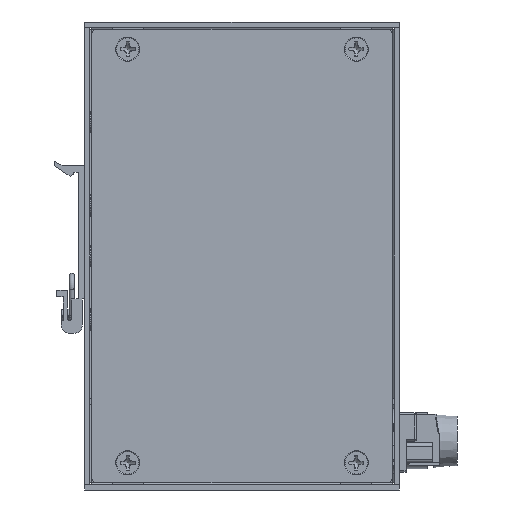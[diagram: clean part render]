
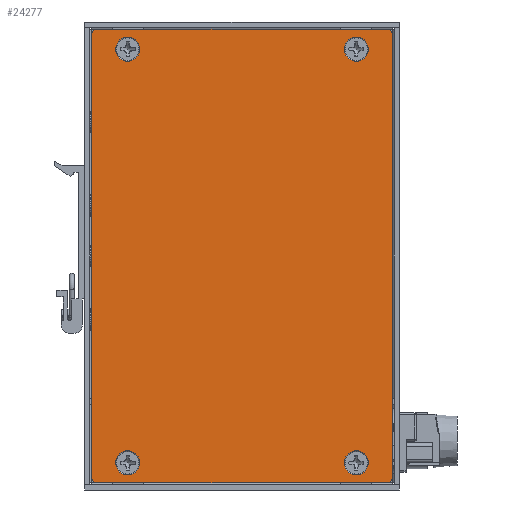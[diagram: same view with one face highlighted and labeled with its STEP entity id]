
A CAD part, front view. The second image highlights one B-rep face of the part: STEP entity #24277.
In plain terms, the highlighted planar face has unit normal (0, -1, 0).
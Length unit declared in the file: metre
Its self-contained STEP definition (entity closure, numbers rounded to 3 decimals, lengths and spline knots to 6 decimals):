
#530=LINE('',#38697,#3260);
#534=LINE('',#38706,#3264);
#540=LINE('',#38720,#3270);
#542=LINE('',#38724,#3272);
#3260=VECTOR('',#28265,1.);
#3264=VECTOR('',#28271,1.);
#3270=VECTOR('',#28279,1.);
#3272=VECTOR('',#28283,1.);
#5957=PLANE('',#26111);
#7318=CIRCLE('',#26112,0.003556);
#7319=CIRCLE('',#26113,0.003556);
#7320=CIRCLE('',#26114,0.003556);
#7321=CIRCLE('',#26115,0.003556);
#7322=CIRCLE('',#26116,0.001524);
#7323=CIRCLE('',#26117,0.001524);
#7324=CIRCLE('',#26118,0.001524);
#7325=CIRCLE('',#26119,0.001524);
#8436=ORIENTED_EDGE('',*,*,#15052,.T.);
#8437=ORIENTED_EDGE('',*,*,#15053,.T.);
#8438=ORIENTED_EDGE('',*,*,#15054,.T.);
#8439=ORIENTED_EDGE('',*,*,#15055,.T.);
#8440=ORIENTED_EDGE('',*,*,#15046,.F.);
#8441=ORIENTED_EDGE('',*,*,#15056,.T.);
#8442=ORIENTED_EDGE('',*,*,#15048,.F.);
#8443=ORIENTED_EDGE('',*,*,#15057,.T.);
#8444=ORIENTED_EDGE('',*,*,#15036,.T.);
#8445=ORIENTED_EDGE('',*,*,#15058,.T.);
#8446=ORIENTED_EDGE('',*,*,#15040,.T.);
#8447=ORIENTED_EDGE('',*,*,#15059,.T.);
#15036=EDGE_CURVE('',#18441,#18442,#530,.T.);
#15040=EDGE_CURVE('',#18445,#18446,#534,.T.);
#15046=EDGE_CURVE('',#18451,#18452,#540,.T.);
#15048=EDGE_CURVE('',#18453,#18454,#542,.T.);
#15052=EDGE_CURVE('',#18457,#18457,#7318,.T.);
#15053=EDGE_CURVE('',#18458,#18458,#7319,.T.);
#15054=EDGE_CURVE('',#18459,#18459,#7320,.T.);
#15055=EDGE_CURVE('',#18460,#18460,#7321,.T.);
#15056=EDGE_CURVE('',#18451,#18454,#7322,.T.);
#15057=EDGE_CURVE('',#18453,#18441,#7323,.T.);
#15058=EDGE_CURVE('',#18442,#18445,#7324,.T.);
#15059=EDGE_CURVE('',#18446,#18452,#7325,.T.);
#18441=VERTEX_POINT('',#38698);
#18442=VERTEX_POINT('',#38699);
#18445=VERTEX_POINT('',#38707);
#18446=VERTEX_POINT('',#38708);
#18451=VERTEX_POINT('',#38719);
#18452=VERTEX_POINT('',#38721);
#18453=VERTEX_POINT('',#38725);
#18454=VERTEX_POINT('',#38726);
#18457=VERTEX_POINT('',#38734);
#18458=VERTEX_POINT('',#38736);
#18459=VERTEX_POINT('',#38738);
#18460=VERTEX_POINT('',#38740);
#20750=EDGE_LOOP('',(#8436));
#20751=EDGE_LOOP('',(#8437));
#20752=EDGE_LOOP('',(#8438));
#20753=EDGE_LOOP('',(#8439));
#20754=EDGE_LOOP('',(#8440,#8441,#8442,#8443,#8444,#8445,#8446,#8447));
#22518=FACE_BOUND('',#20750,.T.);
#22519=FACE_BOUND('',#20751,.T.);
#22520=FACE_BOUND('',#20752,.T.);
#22521=FACE_BOUND('',#20753,.T.);
#22522=FACE_BOUND('',#20754,.T.);
#24277=ADVANCED_FACE('',(#22518,#22519,#22520,#22521,#22522),#5957,.T.);
#26111=AXIS2_PLACEMENT_3D('',#38732,#28287,#28288);
#26112=AXIS2_PLACEMENT_3D('',#38733,#28289,#28290);
#26113=AXIS2_PLACEMENT_3D('',#38735,#28291,#28292);
#26114=AXIS2_PLACEMENT_3D('',#38737,#28293,#28294);
#26115=AXIS2_PLACEMENT_3D('',#38739,#28295,#28296);
#26116=AXIS2_PLACEMENT_3D('',#38741,#28297,#28298);
#26117=AXIS2_PLACEMENT_3D('',#38742,#28299,#28300);
#26118=AXIS2_PLACEMENT_3D('',#38743,#28301,#28302);
#26119=AXIS2_PLACEMENT_3D('',#38744,#28303,#28304);
#28265=DIRECTION('',(1.,0.,0.));
#28271=DIRECTION('',(0.,0.,1.));
#28279=DIRECTION('',(1.,0.,0.));
#28283=DIRECTION('',(0.,0.,1.));
#28287=DIRECTION('',(0.,-1.,0.));
#28288=DIRECTION('',(0.,0.,-1.));
#28289=DIRECTION('',(0.,1.,0.));
#28290=DIRECTION('',(0.,0.,1.));
#28291=DIRECTION('',(0.,1.,0.));
#28292=DIRECTION('',(0.,0.,1.));
#28293=DIRECTION('',(0.,1.,0.));
#28294=DIRECTION('',(0.,0.,1.));
#28295=DIRECTION('',(0.,1.,0.));
#28296=DIRECTION('',(0.,0.,1.));
#28297=DIRECTION('',(0.,-1.,0.));
#28298=DIRECTION('',(0.,0.,-1.));
#28299=DIRECTION('',(0.,-1.,0.));
#28300=DIRECTION('',(0.,0.,-1.));
#28301=DIRECTION('',(0.,-1.,0.));
#28302=DIRECTION('',(0.,0.,-1.));
#28303=DIRECTION('',(0.,-1.,0.));
#28304=DIRECTION('',(0.,0.,-1.));
#38697=CARTESIAN_POINT('',(0.,-0.061722,-0.066993));
#38698=CARTESIAN_POINT('',(-0.042863,-0.061722,-0.066993));
#38699=CARTESIAN_POINT('',(0.042863,-0.061722,-0.066993));
#38706=CARTESIAN_POINT('',(0.044387,-0.061722,-0.066993));
#38707=CARTESIAN_POINT('',(0.044387,-0.061722,-0.065469));
#38708=CARTESIAN_POINT('',(0.044387,-0.061722,0.065469));
#38719=CARTESIAN_POINT('',(-0.042863,-0.061722,0.066993));
#38720=CARTESIAN_POINT('',(0.,-0.061722,0.066993));
#38721=CARTESIAN_POINT('',(0.042863,-0.061722,0.066993));
#38724=CARTESIAN_POINT('',(-0.044387,-0.061722,-0.066993));
#38725=CARTESIAN_POINT('',(-0.044387,-0.061722,-0.065469));
#38726=CARTESIAN_POINT('',(-0.044387,-0.061722,0.065469));
#38732=CARTESIAN_POINT('',(0.,-0.061722,-0.066993));
#38733=CARTESIAN_POINT('',(-0.033782,-0.061722,0.061087));
#38734=CARTESIAN_POINT('',(-0.033782,-0.061722,0.064643));
#38735=CARTESIAN_POINT('',(0.033782,-0.061722,-0.061087));
#38736=CARTESIAN_POINT('',(0.033782,-0.061722,-0.057531));
#38737=CARTESIAN_POINT('',(-0.033782,-0.061722,-0.061087));
#38738=CARTESIAN_POINT('',(-0.033782,-0.061722,-0.057531));
#38739=CARTESIAN_POINT('',(0.033782,-0.061722,0.061087));
#38740=CARTESIAN_POINT('',(0.033782,-0.061722,0.064643));
#38741=CARTESIAN_POINT('',(-0.042863,-0.061722,0.065469));
#38742=CARTESIAN_POINT('',(-0.042863,-0.061722,-0.065469));
#38743=CARTESIAN_POINT('',(0.042863,-0.061722,-0.065469));
#38744=CARTESIAN_POINT('',(0.042863,-0.061722,0.065469));
